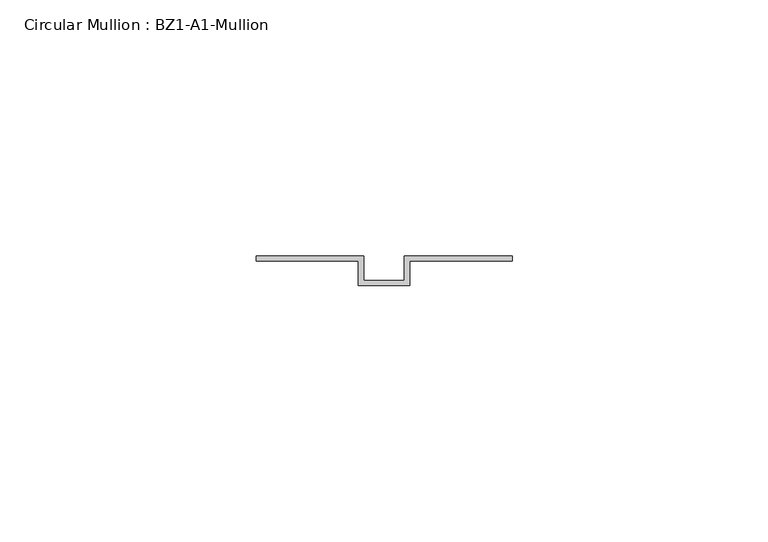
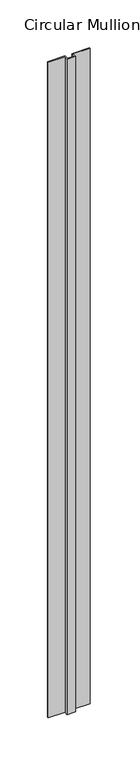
"""IFC4 building model written with IfcOpenShell, lengths in millimetres: member geometry, Circular Mullion : BZ1-A1-Mullion."""

from ifc_helpers import new_model, si_unit, frame, origin, place, context, project, spatial, polyline, outline, extrude, source, transform, mapped, element, save


def circular_mullion_bz1_a1_mullion_52fa444c(model_context):
    return source(origin(), model_context, "Body", "SweptSolid", [
        extrude(outline(polyline([(-25.0, 11.0), (-4.0, 11.0), (-4.0, 6.2), (4.0, 6.2), (4.0, 11.0), (25.0, 11.0), (25.0, 10.0), (5.0, 10.0), (5.0, 5.2), (-5.0, 5.2), (-5.0, 10.0), (-25.0, 10.0), (-25.0, 11.0)])), frame((0.0, 0.0, -833.8888888), z_axis=(0.0, 0.0, 1.0), x_axis=(1.0, 0.0, 0.0)), (0.0, 0.0, 1.0), 833.8888888),
    ])


if __name__ == "__main__":
    model = new_model("IFC4")
    model_context = context("Model", 3, world=origin())
    ifc_project = project(units=[si_unit("LENGTHUNIT", "METRE", prefix="MILLI")], contexts=[model_context])
    site = spatial("IfcSite", under=ifc_project)
    building = spatial("IfcBuilding", under=site)
    placement = place(None, origin())
    circular_mullion_bz1_a1_mullion_shape = circular_mullion_bz1_a1_mullion_52fa444c(model_context)
    element("IfcMember", 1, ObjectType="Circular Mullion : BZ1-A1-Mullion", at=placement, inside=building, context=model_context, shape_type="MappedRepresentation", body=[
        mapped(circular_mullion_bz1_a1_mullion_shape, transform((0.0, 0.0, 0.0), x_axis=(1.0, 0.0, 0.0), y_axis=(0.0, 1.0, 0.0), z_axis=(0.0, 0.0, 1.0))),
    ])
    save(model, "model.ifc")
